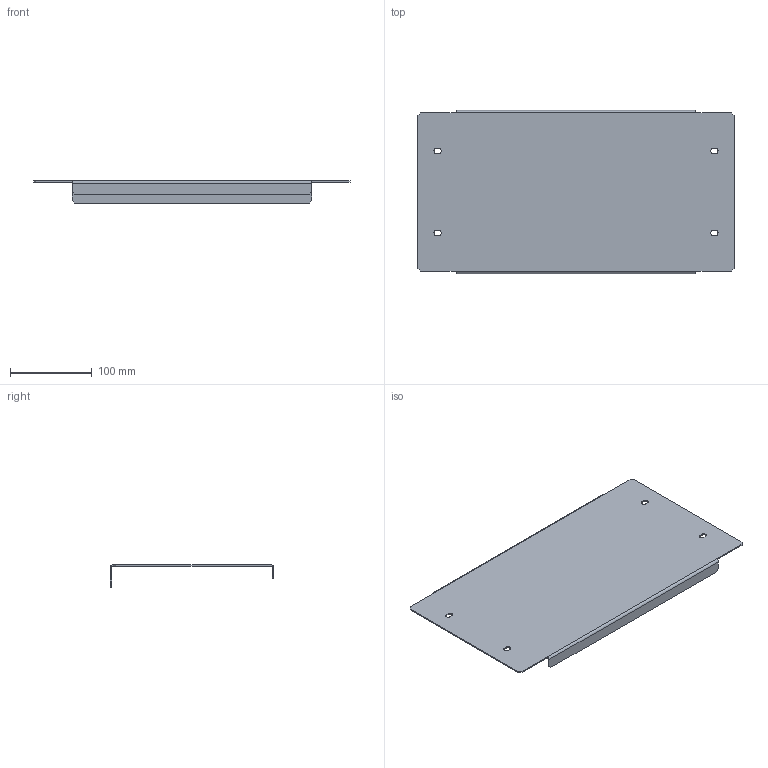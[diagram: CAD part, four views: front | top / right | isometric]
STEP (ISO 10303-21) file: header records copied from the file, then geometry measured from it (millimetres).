
FILE_DESCRIPTION (( 'STEP AP203' ), '1' );
FILE_NAME ('ZA 50 H Ïàíåëü öîêîëÿ.STEP', '2012-11-20T05:11:41', ( 'system' ), ( '' ), 'SwSTEP 2.0', 'SolidWorks 2012', '' );
FILE_SCHEMA (( 'CONFIG_CONTROL_DESIGN' ));
Length unit declared in the file: millimetre
Products named in the file (1): ZA 50 H Ïàíåëü öîêîëÿ
Bounding box: 386.5 x 199 x 27 mm (x, y, z)
Volume: 122381.6 mm3; surface area: 176697.8 mm2
Topology: 1 solids, 1 shells, 54 faces, 140 edges, 88 vertices
Faces by surface type: plane 38, cylinder 16
Entity records: 1721 total; most frequent: CARTESIAN_POINT 283, DIRECTION 282, ORIENTED_EDGE 280, EDGE_CURVE 140, LINE 108, VECTOR 108, VERTEX_POINT 88, AXIS2_PLACEMENT_3D 87
